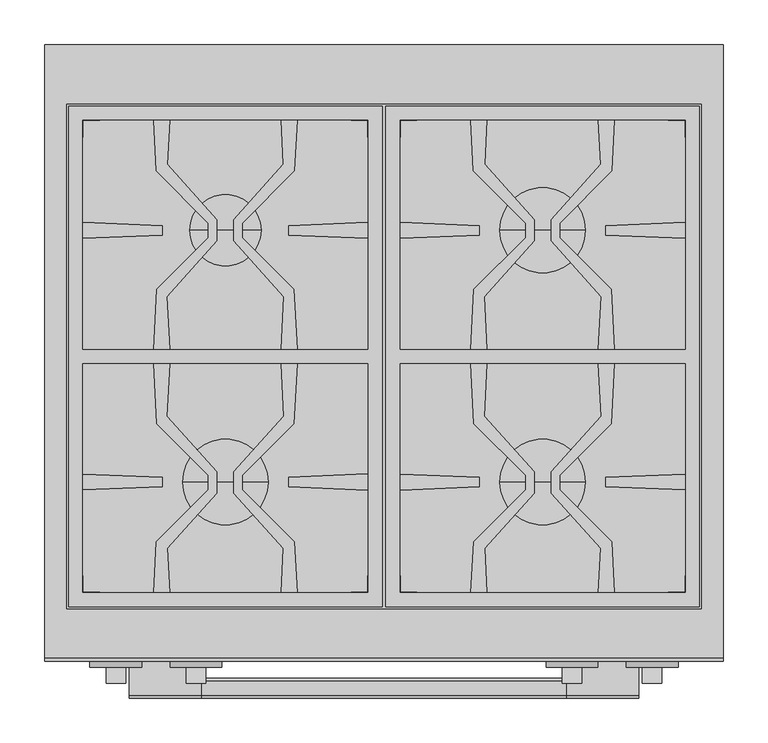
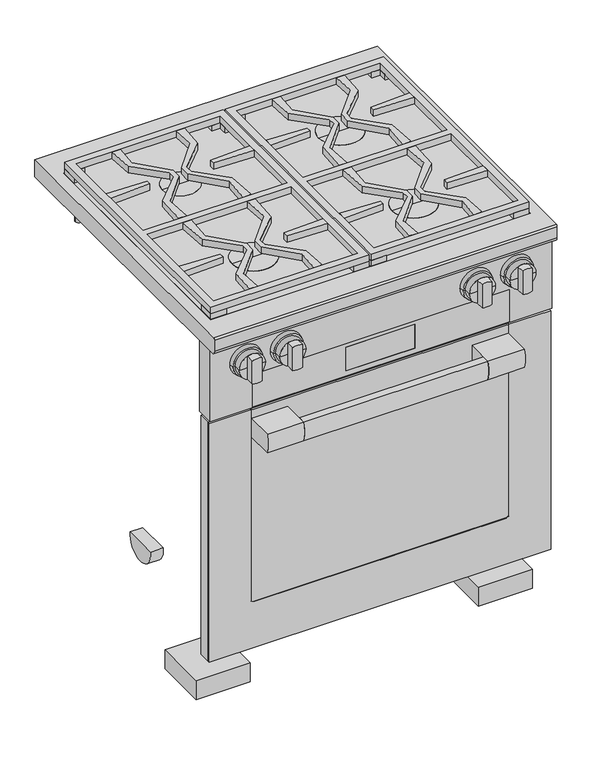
"""IFC4 building model written with IfcOpenShell, lengths in millimetres: proxy geometry, 11791560_USA_HR1924-3LP_EDST-CLS : 25192482_USA_11791560_HR1924-3LP_EDST-CLS."""

from ifc_helpers import new_model, si_unit, point, frame, frame_2d, origin, origin_with_axes, place, context, project, spatial, polyline, circle_curve, trimmed, segment, composite_curve, outline, extrude, faceted_brep, source, transform, mapped, element, save
from ifc_brep_helpers import plane_surface, cylinder_surface, revolved_surface, advanced_brep


def specialty_equipment_0885a198(model_context):
    return source(origin(), model_context, "Body", "SolidModel", [
        extrude(outline(polyline([(-351.0, -617.0), (351.0, -617.0), (351.0, -638.0), (-351.0, -638.0), (-351.0, -617.0)])), frame((0.0, 0.0, 133.0), z_axis=(0.0, 0.0, 1.0), x_axis=(1.0, 0.0, 0.0)), (0.0, 0.0, 1.0), 550.0),
        advanced_brep(
        [(287.0, -664.7, 688.0), (380.0, -664.7, 688.0), (380.0, -664.7, 127.0), (-380.0, -664.7, 127.0), (-380.0, -664.7, 688.0), (-287.0, -664.7, 688.0), (-287.0, -664.7, 687.0), (-379.0, -664.7, 687.0), (-379.0, -664.7, 128.0), (379.0, -664.7, 128.0), (379.0, -664.7, 687.0), (287.0, -664.7, 687.0), (-287.0, -670.0, 688.0), (-380.0, -670.0, 688.0), (-380.0, -670.0, 127.0), (380.0, -670.0, 127.0), (380.0, -670.0, 688.0), (287.0, -670.0, 688.0), (287.0, -670.0, 241.0), (281.0, -670.0, 235.0), (-281.0, -670.0, 235.0), (-287.0, -670.0, 241.0), (-287.0, -668.7, 241.0), (-287.0, -668.7, 687.0), (281.0, -668.7, 235.0), (-281.0, -668.7, 235.0), (287.0, -668.7, 687.0), (287.0, -668.7, 241.0), (379.0, -668.7, 687.0), (379.0, -668.7, 128.0), (-379.0, -668.7, 128.0), (-379.0, -668.7, 687.0)],
        [
            (0, 1),
            (1, 2),
            (2, 3),
            (3, 4),
            (4, 5),
            (5, 6),
            (6, 7),
            (7, 8),
            (8, 9),
            (9, 10),
            (10, 11),
            (11, 0),
            (12, 13),
            (13, 14),
            (14, 15),
            (15, 16),
            (16, 17),
            (17, 18),
            (18, 19, circle_curve(frame((281.0, -670.0, 241.0), z_axis=(0.0, 1.0, 0.0), x_axis=(-1.0, 0.0, 0.0)), 6.0)),
            (19, 20),
            (20, 21, circle_curve(frame((-281.0, -670.0, 241.0), z_axis=(0.0, 1.0, 0.0), x_axis=(-1.0, 0.0, 0.0)), 6.0)),
            (21, 12),
            (21, 22),
            (22, 23),
            (23, 6),
            (5, 12),
            (19, 24),
            (24, 25),
            (25, 20),
            (17, 0),
            (11, 26),
            (26, 27),
            (27, 18),
            (16, 1),
            (15, 2),
            (14, 3),
            (13, 4),
            (25, 22, circle_curve(frame((-281.0, -668.7, 241.0), z_axis=(0.0, 1.0, 0.0), x_axis=(-1.0, 0.0, 0.0)), 6.0)),
            (27, 24, circle_curve(frame((281.0, -668.7, 241.0), z_axis=(0.0, 1.0, 0.0), x_axis=(-1.0, 0.0, 0.0)), 6.0)),
            (28, 29),
            (29, 30),
            (30, 31),
            (31, 23),
            (26, 28),
            (28, 10),
            (9, 29),
            (8, 30),
            (7, 31),
        ],
        [
            plane_surface(frame((-287.0, -664.7, 241.0), z_axis=(0.0, 1.0, 0.0), x_axis=(0.0, 0.0, -1.0))),
            plane_surface(frame((-287.0, -670.0, 241.0), z_axis=(0.0, -1.0, 0.0), x_axis=(0.0, 0.0, 1.0))),
            plane_surface(frame((-287.0, -664.7, 688.0), z_axis=(1.0, 0.0, 0.0), x_axis=(0.0, -1.0, 0.0))),
            plane_surface(frame((-281.0, -664.7, 235.0), z_axis=(0.0, 0.0, 1.0), x_axis=(0.0, -1.0, 0.0))),
            plane_surface(frame((287.0, -664.7, 241.0), z_axis=(-1.0, 0.0, 0.0), x_axis=(0.0, -1.0, 0.0))),
            plane_surface(frame((287.0, -664.7, 688.0), z_axis=(0.0, 0.0, 1.0), x_axis=(0.0, -1.0, 0.0))),
            plane_surface(frame((380.0, -664.7, 688.0), z_axis=(1.0, 0.0, 0.0), x_axis=(0.0, -1.0, 0.0))),
            plane_surface(frame((380.0, -664.7, 127.0), z_axis=(0.0, 0.0, -1.0), x_axis=(0.0, -1.0, 0.0))),
            plane_surface(frame((-380.0, -664.7, 127.0), z_axis=(-1.0, 0.0, 0.0), x_axis=(0.0, -1.0, 0.0))),
            plane_surface(frame((-380.0, -664.7, 688.0), z_axis=(0.0, 0.0, 1.0), x_axis=(0.0, -1.0, 0.0))),
            revolved_surface(polyline([(-287.0, -670.0, 241.0), (-287.0, -668.7, 241.0)]), (-281.0, -670.0, 241.0), (0.0, -1.0, 0.0)),
            revolved_surface(polyline([(275.0, -670.0, 241.0), (275.0, -668.7, 241.0)]), (281.0, -670.0, 241.0), (0.0, -1.0, 0.0)),
            plane_surface(frame((379.0, -668.7, 687.0), z_axis=(0.0, 1.0, 0.0), x_axis=(0.0, 0.0, 1.0))),
            plane_surface(frame((379.0, -664.7, 687.0), z_axis=(-1.0, 0.0, 0.0), x_axis=(0.0, -1.0, 0.0))),
            plane_surface(frame((379.0, -664.7, 128.0), z_axis=(0.0, 0.0, 1.0), x_axis=(0.0, -1.0, 0.0))),
            plane_surface(frame((-379.0, -664.7, 128.0), z_axis=(1.0, 0.0, 0.0), x_axis=(0.0, -1.0, 0.0))),
            plane_surface(frame((-379.0, -664.7, 687.0), z_axis=(0.0, 0.0, -1.0), x_axis=(0.0, -1.0, 0.0))),
        ],
        [
            (0, [[1, 2, 3, 4, 5, 6, 7, 8, 9, 10, 11, 12]]),
            (1, [[13, 14, 15, 16, 17, 18, 19, 20, 21, 22]]),
            (2, [[-22, 23, 24, 25, -6, 26]]),
            (3, [[-20, 27, 28, 29]]),
            (4, [[-18, 30, -12, 31, 32, 33]]),
            (5, [[-1, -30, -17, 34]]),
            (6, [[-2, -34, -16, 35]]),
            (7, [[-3, -35, -15, 36]]),
            (8, [[-4, -36, -14, 37]]),
            (9, [[-5, -37, -13, -26]]),
            (10, [[-21, -29, 38, -23]]),
            (11, [[-19, -33, 39, -27]]),
            (12, [[40, 41, 42, 43, -24, -38, -28, -39, -32, 44]]),
            (13, [[-40, 45, -10, 46]]),
            (14, [[-41, -46, -9, 47]]),
            (15, [[-42, -47, -8, 48]]),
            (16, [[-45, -44, -31, -11]]),
            (16, [[-48, -7, -25, -43]]),
        ],
    ),
        extrude(outline(polyline([(-379.0, -664.7), (379.0, -664.7), (379.0, -668.7), (-379.0, -668.7), (-379.0, -664.7)])), frame((0.0, 0.0, 128.0), z_axis=(0.0, 0.0, 1.0), x_axis=(1.0, 0.0, 0.0)), (0.0, 0.0, 1.0), 559.0),
        extrude(outline(polyline([(-380.0, -638.0), (380.0, -638.0), (380.0, -664.7), (-380.0, -664.7), (-380.0, -638.0)])), frame((0.0, 0.0, 127.0), z_axis=(0.0, 0.0, 1.0), x_axis=(1.0, 0.0, 0.0)), (0.0, 0.0, 1.0), 561.0),
        extrude(outline(composite_curve([segment(polyline([(-668.7, 667.0), (-668.7, 624.0), (-731.0, 624.0)]), True, "CONTINUOUS"), segment(trimmed(circle_curve(frame_2d((-655.4583333, 645.5)), 78.5416667), [point((-731.0, 624.0))], [point((-731.0, 667.0))], False, "CARTESIAN"), True, "CONTINUOUS"), segment(polyline([(-731.0, 667.0), (-668.7, 667.0)]), True, "CONTINUOUS")], self_intersect=False)), frame((-286.0, 0.0, 0.0), z_axis=(1.0, 0.0, 0.0), x_axis=(0.0, 1.0, 0.0)), (0.0, 0.0, 1.0), 81.0),
        extrude(outline(composite_curve([segment(polyline([(-731.0, 667.0), (-668.7, 667.0), (-668.7, 624.0), (-731.0, 624.0)]), True, "CONTINUOUS"), segment(trimmed(circle_curve(frame_2d((-655.4583333, 645.5)), 78.5416667), [point((-731.0, 624.0))], [point((-731.0, 667.0))], False, "CARTESIAN"), True, "CONTINUOUS")], self_intersect=False)), frame((205.0, 0.0, 0.0), z_axis=(1.0, 0.0, 0.0), x_axis=(0.0, 1.0, 0.0)), (0.0, 0.0, 1.0), 81.0),
        extrude(outline(composite_curve([segment(polyline([(-714.0, 624.0), (-731.0, 624.0)]), True, "CONTINUOUS"), segment(trimmed(circle_curve(frame_2d((-655.4583333, 645.5)), 78.5416667), [point((-731.0, 624.0))], [point((-731.0, 667.0))], False, "CARTESIAN"), True, "CONTINUOUS"), segment(polyline([(-731.0, 667.0), (-714.0, 667.0)]), True, "CONTINUOUS"), segment(trimmed(circle_curve(frame_2d((-789.5416667, 645.5)), 78.5416667), [point((-714.0, 667.0))], [point((-714.0, 624.0))], False, "CARTESIAN"), True, "CONTINUOUS")], self_intersect=False)), frame((-205.0, 0.0, 0.0), z_axis=(1.0, 0.0, 0.0), x_axis=(0.0, 1.0, 0.0)), (0.0, 0.0, 1.0), 410.0),
        advanced_brep(
        [(381.0, 0.0, 902.0), (381.0, -688.3499547, 902.0), (381.0, -692.0, 898.3499547), (381.0, -692.0, 872.0), (381.0, -682.0, 862.0), (381.0, 0.0, 862.0), (-381.0, 0.0, 902.0), (-381.0, 0.0, 862.0), (-381.0, -682.0, 862.0), (-381.0, -692.0, 872.0), (-381.0, -692.0, 898.3499547), (-381.0, -688.3499547, 902.0), (-356.0, -67.0, 902.0), (356.0, -67.0, 902.0), (356.0, -633.0, 902.0), (-356.0, -633.0, 902.0), (356.0, -67.0, 870.0), (-356.0, -67.0, 870.0), (-356.0, -633.0, 870.0), (356.0, -633.0, 870.0)],
        [
            (0, 1),
            (1, 2, circle_curve(frame((381.0, -688.0, 898.0), z_axis=(1.0, 0.0, 0.0), x_axis=(0.0, 0.0, 1.0)), 4.0152794)),
            (2, 3),
            (3, 4, circle_curve(frame((381.0, -682.0, 872.0), z_axis=(1.0, 0.0, 0.0), x_axis=(0.0, 0.0, 1.0)), 10.0)),
            (4, 5),
            (5, 0),
            (6, 7),
            (7, 8),
            (8, 9, circle_curve(frame((-381.0, -682.0, 872.0), z_axis=(-1.0, 0.0, 0.0), x_axis=(0.0, 0.0, 1.0)), 10.0)),
            (9, 10),
            (10, 11, circle_curve(frame((-381.0, -688.0, 898.0), z_axis=(-1.0, 0.0, 0.0), x_axis=(0.0, 0.0, 1.0)), 4.0152794)),
            (11, 6),
            (0, 6),
            (11, 1),
            (12, 13),
            (13, 14),
            (14, 15),
            (15, 12),
            (10, 2),
            (9, 3),
            (8, 4),
            (7, 5),
            (16, 17),
            (17, 18),
            (18, 19),
            (19, 16),
            (16, 13),
            (12, 17),
            (15, 18),
            (14, 19),
        ],
        [
            plane_surface(frame((381.0, -688.3499547, 902.0), z_axis=(1.0, 0.0, 0.0), x_axis=(0.0, -1.0, 0.0))),
            plane_surface(frame((-381.0, -688.3499547, 902.0), z_axis=(-1.0, 0.0, 0.0), x_axis=(0.0, 1.0, 0.0))),
            plane_surface(frame((381.0, 0.0, 902.0), z_axis=(0.0, 0.0, 1.0), x_axis=(-1.0, 0.0, 0.0))),
            cylinder_surface(frame((-381.0, -688.0, 898.0), z_axis=(1.0, 0.0, 0.0), x_axis=(0.0, 0.0, 1.0)), 4.0152794),
            plane_surface(frame((381.0, -692.0, 898.3499547), z_axis=(0.0, -1.0, 0.0), x_axis=(-1.0, 0.0, 0.0))),
            cylinder_surface(frame((-381.0, -682.0, 872.0), z_axis=(1.0, 0.0, 0.0), x_axis=(0.0, 0.0, 1.0)), 10.0),
            plane_surface(frame((381.0, -682.0, 862.0), z_axis=(0.0, 0.0, -1.0), x_axis=(-1.0, 0.0, 0.0))),
            plane_surface(frame((381.0, 0.0, 862.0), z_axis=(0.0, 1.0, 0.0), x_axis=(-1.0, 0.0, 0.0))),
            plane_surface(frame((-356.0, -67.0, 870.0), z_axis=(0.0, 0.0, 1.0), x_axis=(1.0, 0.0, 0.0))),
            plane_surface(frame((356.0, -67.0, 902.0), z_axis=(0.0, -1.0, 0.0), x_axis=(0.0, 0.0, -1.0))),
            plane_surface(frame((-356.0, -67.0, 902.0), z_axis=(1.0, 0.0, 0.0), x_axis=(0.0, 0.0, -1.0))),
            plane_surface(frame((-356.0, -633.0, 902.0), z_axis=(0.0, 1.0, 0.0), x_axis=(0.0, 0.0, -1.0))),
            plane_surface(frame((356.0, -633.0, 902.0), z_axis=(-1.0, 0.0, 0.0), x_axis=(0.0, 0.0, -1.0))),
        ],
        [
            (0, [[1, 2, 3, 4, 5, 6]]),
            (1, [[7, 8, 9, 10, 11, 12]]),
            (2, [[-1, 13, -12, 14], [15, 16, 17, 18]]),
            (3, [[-2, -14, -11, 19]]),
            (4, [[-3, -19, -10, 20]]),
            (5, [[-4, -20, -9, 21]]),
            (6, [[-5, -21, -8, 22]]),
            (7, [[-6, -22, -7, -13]]),
            (8, [[23, 24, 25, 26]]),
            (9, [[-23, 27, -15, 28]]),
            (10, [[-24, -28, -18, 29]]),
            (11, [[-25, -29, -17, 30]]),
            (12, [[-26, -30, -16, -27]]),
        ],
    ),
        advanced_brep(
        [(130.0, -491.0, 887.0), (226.0, -491.0, 887.0), (226.0, -491.0, 901.0), (130.0, -491.0, 901.0), (178.0, -491.0, 887.0), (178.0, -491.0, 901.0)],
        [
            (0, 1, circle_curve(frame((178.0, -491.0, 887.0), z_axis=(0.0, 0.0, 1.0), x_axis=(1.0, 0.0, 0.0)), 48.0)),
            (1, 2),
            (2, 3, circle_curve(frame((178.0, -491.0, 901.0), z_axis=(0.0, 0.0, -1.0), x_axis=(1.0, 0.0, 0.0)), 48.0)),
            (3, 0),
            (1, 0, circle_curve(frame((178.0, -491.0, 887.0), z_axis=(0.0, 0.0, 1.0), x_axis=(1.0, 0.0, 0.0)), 48.0)),
            (3, 2, circle_curve(frame((178.0, -491.0, 901.0), z_axis=(0.0, 0.0, -1.0), x_axis=(1.0, 0.0, 0.0)), 48.0)),
            (4, 1),
            (0, 4),
            (2, 5),
            (5, 3),
        ],
        [
            cylinder_surface(frame((178.0, -491.0, 2424.4), z_axis=(0.0, 0.0, -1.0), x_axis=(1.0, 0.0, 0.0)), 48.0),
            plane_surface(frame((178.0, -491.0, 887.0), z_axis=(0.0, 0.0, -1.0), x_axis=(1.0, 0.0, 0.0))),
            plane_surface(frame((178.0, -491.0, 901.0), z_axis=(0.0, 0.0, 1.0), x_axis=(1.0, 0.0, 0.0))),
        ],
        [
            (0, [[1, 2, 3, 4]]),
            (0, [[5, -4, 6, -2]]),
            (1, [[7, -1, 8]]),
            (1, [[-8, -5, -7]]),
            (2, [[-3, 9, 10]]),
            (2, [[-6, -10, -9]]),
        ],
    ),
        advanced_brep(
        [(-226.0, -491.0, 887.0), (-130.0, -491.0, 887.0), (-130.0, -491.0, 901.0), (-226.0, -491.0, 901.0), (-178.0, -491.0, 887.0), (-178.0, -491.0, 901.0)],
        [
            (0, 1, circle_curve(frame((-178.0, -491.0, 887.0), z_axis=(0.0, 0.0, 1.0), x_axis=(1.0, 0.0, 0.0)), 48.0)),
            (1, 2),
            (2, 3, circle_curve(frame((-178.0, -491.0, 901.0), z_axis=(0.0, 0.0, -1.0), x_axis=(1.0, 0.0, 0.0)), 48.0)),
            (3, 0),
            (1, 0, circle_curve(frame((-178.0, -491.0, 887.0), z_axis=(0.0, 0.0, 1.0), x_axis=(1.0, 0.0, 0.0)), 48.0)),
            (3, 2, circle_curve(frame((-178.0, -491.0, 901.0), z_axis=(0.0, 0.0, -1.0), x_axis=(1.0, 0.0, 0.0)), 48.0)),
            (4, 1),
            (0, 4),
            (2, 5),
            (5, 3),
        ],
        [
            cylinder_surface(frame((-178.0, -491.0, 2424.4), z_axis=(0.0, 0.0, -1.0), x_axis=(1.0, 0.0, 0.0)), 48.0),
            plane_surface(frame((-178.0, -491.0, 887.0), z_axis=(0.0, 0.0, -1.0), x_axis=(1.0, 0.0, 0.0))),
            plane_surface(frame((-178.0, -491.0, 901.0), z_axis=(0.0, 0.0, 1.0), x_axis=(1.0, 0.0, 0.0))),
        ],
        [
            (0, [[1, 2, 3, 4]]),
            (0, [[5, -4, 6, -2]]),
            (1, [[7, -1, 8]]),
            (1, [[-8, -5, -7]]),
            (2, [[-3, 9, 10]]),
            (2, [[-6, -10, -9]]),
        ],
    ),
        advanced_brep(
        [(-178.0, -208.5, 887.0), (-138.0, -208.5, 887.0), (-218.0, -208.5, 887.0), (-218.0, -208.5, 901.0), (-138.0, -208.5, 901.0), (-178.0, -208.5, 901.0)],
        [
            (0, 1),
            (1, 2, circle_curve(frame((-178.0, -208.5, 887.0), z_axis=(0.0, 0.0, -1.0), x_axis=(1.0, 0.0, 0.0)), 40.0)),
            (2, 0),
            (2, 1, circle_curve(frame((-178.0, -208.5, 887.0), z_axis=(0.0, 0.0, -1.0), x_axis=(1.0, 0.0, 0.0)), 40.0)),
            (3, 4, circle_curve(frame((-178.0, -208.5, 901.0), z_axis=(0.0, 0.0, 1.0), x_axis=(1.0, 0.0, 0.0)), 40.0)),
            (4, 5),
            (5, 3),
            (4, 3, circle_curve(frame((-178.0, -208.5, 901.0), z_axis=(0.0, 0.0, 1.0), x_axis=(1.0, 0.0, 0.0)), 40.0)),
            (1, 4),
            (3, 2),
        ],
        [
            plane_surface(frame((-178.0, -208.5, 887.0), z_axis=(0.0, 0.0, -1.0), x_axis=(1.0, 0.0, 0.0))),
            plane_surface(frame((-178.0, -208.5, 901.0), z_axis=(0.0, 0.0, 1.0), x_axis=(1.0, 0.0, 0.0))),
            cylinder_surface(frame((-178.0, -208.5, 2424.4), z_axis=(0.0, 0.0, -1.0), x_axis=(1.0, 0.0, 0.0)), 40.0),
        ],
        [
            (0, [[1, 2, 3]]),
            (0, [[-3, 4, -1]]),
            (1, [[5, 6, 7]]),
            (1, [[8, -7, -6]]),
            (2, [[-2, 9, -5, 10]]),
            (2, [[-4, -10, -8, -9]]),
        ],
    ),
        advanced_brep(
        [(130.0, -208.5, 887.0), (226.0, -208.5, 887.0), (226.0, -208.5, 901.0), (130.0, -208.5, 901.0), (178.0, -208.5, 887.0), (178.0, -208.5, 901.0)],
        [
            (0, 1, circle_curve(frame((178.0, -208.5, 887.0), z_axis=(0.0, 0.0, 1.0), x_axis=(1.0, 0.0, 0.0)), 48.0)),
            (1, 2),
            (2, 3, circle_curve(frame((178.0, -208.5, 901.0), z_axis=(0.0, 0.0, -1.0), x_axis=(1.0, 0.0, 0.0)), 48.0)),
            (3, 0),
            (1, 0, circle_curve(frame((178.0, -208.5, 887.0), z_axis=(0.0, 0.0, 1.0), x_axis=(1.0, 0.0, 0.0)), 48.0)),
            (3, 2, circle_curve(frame((178.0, -208.5, 901.0), z_axis=(0.0, 0.0, -1.0), x_axis=(1.0, 0.0, 0.0)), 48.0)),
            (4, 1),
            (0, 4),
            (2, 5),
            (5, 3),
        ],
        [
            cylinder_surface(frame((178.0, -208.5, 2338.4), z_axis=(0.0, 0.0, -1.0), x_axis=(1.0, 0.0, 0.0)), 48.0),
            plane_surface(frame((178.0, -208.5, 887.0), z_axis=(0.0, 0.0, -1.0), x_axis=(1.0, 0.0, 0.0))),
            plane_surface(frame((178.0, -208.5, 901.0), z_axis=(0.0, 0.0, 1.0), x_axis=(1.0, 0.0, 0.0))),
        ],
        [
            (0, [[1, 2, 3, 4]]),
            (0, [[5, -4, 6, -2]]),
            (1, [[7, -1, 8]]),
            (1, [[-8, -5, -7]]),
            (2, [[-3, 9, 10]]),
            (2, [[-6, -10, -9]]),
        ],
    ),
        extrude(outline(polyline([(354.0, -631.0), (319.0, -631.0), (319.0, -615.0), (338.0337834, -615.0), (338.0337834, -596.0), (354.0, -596.0), (354.0, -631.0)])), frame((0.0, 0.0, 887.0), z_axis=(0.0, 0.0, 1.0), x_axis=(1.0, 0.0, 0.0)), (0.0, 0.0, 1.0), 27.0),
        extrude(outline(polyline([(2.0, -631.0), (2.0, -596.0), (18.0337834, -596.0), (18.0337834, -615.0), (37.0, -615.0), (37.0, -631.0), (2.0, -631.0)])), frame((0.0, 0.0, 887.0), z_axis=(0.0, 0.0, 1.0), x_axis=(1.0, 0.0, 0.0)), (0.0, 0.0, 1.0), 27.0),
        extrude(outline(polyline([(354.0, -69.0), (354.0, -104.0), (338.0337834, -104.0), (338.0337834, -85.0), (319.0, -85.0), (319.0, -69.0), (354.0, -69.0)])), frame((0.0, 0.0, 887.0), z_axis=(0.0, 0.0, 1.0), x_axis=(1.0, 0.0, 0.0)), (0.0, 0.0, 1.0), 27.0),
        extrude(outline(polyline([(2.0, -69.0), (37.0, -69.0), (37.0, -85.0), (18.0337834, -85.0), (18.0337834, -104.0), (2.0, -104.0), (2.0, -69.0)])), frame((0.0, 0.0, 887.0), z_axis=(0.0, 0.0, 1.0), x_axis=(1.0, 0.0, 0.0)), (0.0, 0.0, 1.0), 27.0),
        extrude(outline(polyline([(354.0, -69.0), (354.0, -631.0), (2.0, -631.0), (2.0, -69.0), (354.0, -69.0)]), holes=[polyline([(338.0337834, -85.0), (18.0337834, -85.0), (18.0337834, -342.0), (338.0337834, -342.0), (338.0337834, -85.0)]), polyline([(18.0337834, -358.0), (18.0337834, -615.0), (338.0337834, -615.0), (338.0337834, -358.0), (18.0337834, -358.0)])]), frame((0.0, 0.0, 914.0), z_axis=(0.0, 0.0, 1.0), x_axis=(1.0, 0.0, 0.0)), (0.0, 0.0, 1.0), 15.0),
        extrude(outline(polyline([(-2.0, -69.0), (-2.0, -631.0), (-354.0, -631.0), (-354.0, -69.0), (-2.0, -69.0)]), holes=[polyline([(-18.0, -85.0), (-338.0, -85.0), (-338.0, -342.0), (-18.0, -342.0), (-18.0, -85.0)]), polyline([(-338.0, -358.0), (-338.0, -615.0), (-18.0, -615.0), (-18.0, -358.0), (-338.0, -358.0)])]), frame((0.0, 0.0, 914.0), z_axis=(0.0, 0.0, 1.0), x_axis=(1.0, 0.0, 0.0)), (0.0, 0.0, 1.0), 15.0),
        extrude(outline(polyline([(18.0337834, -217.4810574), (18.0337834, -199.5189426), (107.0337834, -203.2078739), (107.0337834, -213.7921261), (18.0337834, -217.4810574)])), frame((0.0, 0.0, 914.0), z_axis=(0.0, 0.0, 1.0), x_axis=(1.0, 0.0, 0.0)), (0.0, 0.0, 1.0), 15.0),
        extrude(outline(polyline([(338.0337834, -199.5262039), (338.0337834, -217.4737961), (249.0337834, -213.7790477), (249.0337834, -203.2209523), (338.0337834, -199.5262039)])), frame((0.0, 0.0, 914.0), z_axis=(0.0, 0.0, 1.0), x_axis=(1.0, 0.0, 0.0)), (0.0, 0.0, 1.0), 15.0),
        extrude(outline(polyline([(18.0337834, -499.9810574), (18.0337834, -482.0189426), (107.0337834, -485.7078739), (107.0337834, -496.2921261), (18.0337834, -499.9810574)])), frame((0.0, 0.0, 914.0), z_axis=(0.0, 0.0, 1.0), x_axis=(1.0, 0.0, 0.0)), (0.0, 0.0, 1.0), 15.0),
        extrude(outline(polyline([(338.0337834, -482.0262039), (338.0337834, -499.9737961), (249.0337834, -496.2790477), (249.0337834, -485.7209523), (338.0337834, -482.0262039)])), frame((0.0, 0.0, 914.0), z_axis=(0.0, 0.0, 1.0), x_axis=(1.0, 0.0, 0.0)), (0.0, 0.0, 1.0), 15.0),
        extrude(outline(polyline([(-2.0, -631.0), (-37.0, -631.0), (-37.0, -615.0), (-18.0, -615.0), (-18.0, -596.0), (-2.0, -596.0), (-2.0, -631.0)])), frame((0.0, 0.0, 887.0), z_axis=(0.0, 0.0, 1.0), x_axis=(1.0, 0.0, 0.0)), (0.0, 0.0, 1.0), 27.0),
        extrude(outline(polyline([(-354.0, -631.0), (-354.0, -596.0), (-338.0, -596.0), (-338.0, -615.0), (-319.0, -615.0), (-319.0, -631.0), (-354.0, -631.0)])), frame((0.0, 0.0, 887.0), z_axis=(0.0, 0.0, 1.0), x_axis=(1.0, 0.0, 0.0)), (0.0, 0.0, 1.0), 27.0),
        extrude(outline(polyline([(-2.0, -69.0), (-2.0, -104.0), (-18.0, -104.0), (-18.0, -85.0), (-37.0, -85.0), (-37.0, -69.0), (-2.0, -69.0)])), frame((0.0, 0.0, 887.0), z_axis=(0.0, 0.0, 1.0), x_axis=(1.0, 0.0, 0.0)), (0.0, 0.0, 1.0), 27.0),
        extrude(outline(polyline([(-354.0, -69.0), (-319.0, -69.0), (-319.0, -85.0), (-338.0, -85.0), (-338.0, -104.0), (-354.0, -104.0), (-354.0, -69.0)])), frame((0.0, 0.0, 887.0), z_axis=(0.0, 0.0, 1.0), x_axis=(1.0, 0.0, 0.0)), (0.0, 0.0, 1.0), 27.0),
        extrude(outline(polyline([(-249.0, -496.2921261), (-338.0, -499.9578849), (-338.0, -482.0421151), (-249.0, -485.7078739), (-249.0, -496.2921261)])), frame((0.0, 0.0, 914.0), z_axis=(0.0, 0.0, 1.0), x_axis=(1.0, 0.0, 0.0)), (0.0, 0.0, 1.0), 15.0),
        extrude(outline(polyline([(-18.0, -482.0029948), (-18.0, -499.9970052), (-107.0, -496.2790477), (-107.0, -485.7209523), (-18.0, -482.0029948)])), frame((0.0, 0.0, 914.0), z_axis=(0.0, 0.0, 1.0), x_axis=(1.0, 0.0, 0.0)), (0.0, 0.0, 1.0), 15.0),
        extrude(outline(polyline([(-249.0, -213.7921261), (-338.0, -217.4578849), (-338.0, -199.5421151), (-249.0, -203.2078739), (-249.0, -213.7921261)])), frame((0.0, 0.0, 914.0), z_axis=(0.0, 0.0, 1.0), x_axis=(1.0, 0.0, 0.0)), (0.0, 0.0, 1.0), 15.0),
        extrude(outline(polyline([(-18.0, -199.5029948), (-18.0, -217.4970052), (-107.0, -213.7790477), (-107.0, -203.2209523), (-18.0, -199.5029948)])), frame((0.0, 0.0, 914.0), z_axis=(0.0, 0.0, 1.0), x_axis=(1.0, 0.0, 0.0)), (0.0, 0.0, 1.0), 15.0),
        extrude(outline(polyline([(-2.0, -67.0), (-2.0, -633.0), (-354.0, -633.0), (-354.0, -67.0), (-2.0, -67.0)])), frame((0.0, 0.0, 870.0), z_axis=(0.0, 0.0, 1.0), x_axis=(1.0, 0.0, 0.0)), (0.0, 0.0, 1.0), 17.0),
        extrude(outline(polyline([(354.0, -69.0), (354.0, -631.0), (2.0, -631.0), (2.0, -69.0), (354.0, -69.0)])), frame((0.0, 0.0, 870.0), z_axis=(0.0, 0.0, 1.0), x_axis=(1.0, 0.0, 0.0)), (0.0, 0.0, 1.0), 17.0),
        extrude(outline(polyline([(115.4614138, -85.0), (112.8661974, -134.5196799), (168.5, -196.6082182), (168.5, -220.3917818), (112.3710782, -283.0328838), (115.4614138, -342.0), (97.4614138, -342.0), (100.9971843, -274.5334805), (158.8891082, -216.6415566), (158.8891082, -200.3584434), (100.4441217, -141.9134569), (97.4614138, -85.0), (115.4614138, -85.0)])), frame((0.0, 0.0, 914.0), z_axis=(0.0, 0.0, 1.0), x_axis=(1.0, 0.0, 0.0)), (0.0, 0.0, 1.0), 15.0),
        extrude(outline(polyline([(243.0952165, -134.5196799), (240.5, -85.0), (258.5, -85.0), (255.5172921, -141.9134569), (197.1108918, -200.3198573), (197.1108918, -216.6801428), (254.9642295, -274.5334805), (258.5, -342.0), (240.5, -342.0), (243.5903356, -283.0328839), (187.5, -220.4348449), (187.5, -196.5651551), (243.0952165, -134.5196799)])), frame((0.0, 0.0, 914.0), z_axis=(0.0, 0.0, 1.0), x_axis=(1.0, 0.0, 0.0)), (0.0, 0.0, 1.0), 15.0),
        extrude(outline(polyline([(-258.5385862, -85.0), (-240.5385862, -85.0), (-243.1338026, -134.5196799), (-187.5, -196.6082182), (-187.5, -220.3917818), (-243.6289218, -283.0328838), (-240.5385862, -342.0), (-258.5385862, -342.0), (-255.0028157, -274.5334805), (-197.1108918, -216.6415566), (-197.1108918, -200.3584434), (-255.5558783, -141.9134569), (-258.5385862, -85.0)])), frame((0.0, 0.0, 914.0), z_axis=(0.0, 0.0, 1.0), x_axis=(1.0, 0.0, 0.0)), (0.0, 0.0, 1.0), 15.0),
        extrude(outline(polyline([(-115.5, -85.0), (-97.5, -85.0), (-100.4827079, -141.9134569), (-158.8891082, -200.3198573), (-158.8891082, -216.6801428), (-101.0357705, -274.5334805), (-97.5, -342.0), (-115.5, -342.0), (-112.4096644, -283.0328839), (-168.5, -220.4348449), (-168.5, -196.5651551), (-112.9047835, -134.5196799), (-115.5, -85.0)])), frame((0.0, 0.0, 914.0), z_axis=(0.0, 0.0, 1.0), x_axis=(1.0, 0.0, 0.0)), (0.0, 0.0, 1.0), 15.0),
        extrude(outline(polyline([(-258.5822696, -358.0273828), (-240.5825893, -358.0273828), (-243.6525581, -416.9894265), (-187.5409434, -479.568392), (-187.5409434, -503.4471434), (-243.1069467, -565.5024535), (-240.4948945, -615.0212482), (-258.4945748, -615.0212482), (-255.5293542, -558.0710081), (-197.1505447, -499.6921986), (-197.1505447, -483.3657133), (-255.0235617, -425.4926963), (-258.5822696, -358.0273828)])), frame((0.0, 0.0, 914.0), z_axis=(0.0, 0.0, 1.0), x_axis=(1.0, 0.0, 0.0)), (0.0, 0.0, 1.0), 15.0),
        extrude(outline(polyline([(-115.5411265, -358.0273828), (-97.5465434, -358.0273828), (-101.0565254, -425.4403498), (-158.9287769, -483.3126013), (-158.9287769, -499.6295194), (-100.4561608, -558.1021355), (-97.4537513, -615.0212482), (-115.458529, -615.0212482), (-112.8779352, -565.4581775), (-168.5409298, -503.3795395), (-168.5409298, -479.6049953), (-112.4333083, -416.9448139), (-115.5411265, -358.0273828)])), frame((0.0, 0.0, 914.0), z_axis=(0.0, 0.0, 1.0), x_axis=(1.0, 0.0, 0.0)), (0.0, 0.0, 1.0), 15.0),
        extrude(outline(polyline([(97.4177304, -358.0273828), (115.4174107, -358.0273828), (112.3474419, -416.9894265), (168.4590566, -479.568392), (168.4590566, -503.4471434), (112.8930533, -565.5024535), (115.5051055, -615.0212482), (97.5054252, -615.0212482), (100.4706458, -558.0710081), (158.8494553, -499.6921986), (158.8494553, -483.3657133), (100.9764383, -425.4926963), (97.4177304, -358.0273828)])), frame((0.0, 0.0, 914.0), z_axis=(0.0, 0.0, 1.0), x_axis=(1.0, 0.0, 0.0)), (0.0, 0.0, 1.0), 15.0),
        extrude(outline(polyline([(243.5666917, -416.9448139), (240.4588735, -358.0273828), (258.4534566, -358.0273828), (254.9434746, -425.4403498), (197.0712231, -483.3126013), (197.0712231, -499.6295194), (255.5438392, -558.1021355), (258.5462487, -615.0212482), (240.541471, -615.0212482), (243.1220648, -565.4581775), (187.4590702, -503.3795395), (187.4590702, -479.6049953), (243.5666917, -416.9448139)])), frame((0.0, 0.0, 914.0), z_axis=(0.0, 0.0, 1.0), x_axis=(1.0, 0.0, 0.0)), (0.0, 0.0, 1.0), 15.0),
        extrude(outline(polyline([(356.0, -67.0), (356.0, -633.0), (-356.0, -633.0), (-356.0, -67.0), (356.0, -67.0)])), frame((0.0, 0.0, 870.0), z_axis=(0.0, 0.0, 1.0), x_axis=(1.0, 0.0, 0.0)), (0.0, 0.0, 1.0), 31.0),
        advanced_brep(
        [(301.0, -683.0, 813.0), (330.0, -683.0, 813.0), (272.0, -683.0, 813.0), (272.0, -699.0, 813.0), (330.0, -699.0, 813.0), (301.0, -699.0, 813.0)],
        [
            (0, 1),
            (1, 2, circle_curve(frame((301.0, -683.0, 813.0), z_axis=(0.0, 1.0, 0.0), x_axis=(1.0, 0.0, 0.0)), 29.0)),
            (2, 0),
            (2, 1, circle_curve(frame((301.0, -683.0, 813.0), z_axis=(0.0, 1.0, 0.0), x_axis=(1.0, 0.0, 0.0)), 29.0)),
            (3, 4, circle_curve(frame((301.0, -699.0, 813.0), z_axis=(0.0, -1.0, 0.0), x_axis=(1.0, 0.0, 0.0)), 29.0)),
            (4, 5),
            (5, 3),
            (4, 3, circle_curve(frame((301.0, -699.0, 813.0), z_axis=(0.0, -1.0, 0.0), x_axis=(1.0, 0.0, 0.0)), 29.0)),
            (1, 4),
            (3, 2),
        ],
        [
            plane_surface(frame((301.0, -683.0, 813.0), z_axis=(0.0, 1.0, 0.0), x_axis=(1.0, 0.0, 0.0))),
            plane_surface(frame((301.0, -699.0, 813.0), z_axis=(0.0, -1.0, 0.0), x_axis=(1.0, 0.0, 0.0))),
            cylinder_surface(frame((301.0, 751.3738435, 813.0), z_axis=(0.0, 1.0, 0.0), x_axis=(1.0, 0.0, 0.0)), 29.0),
        ],
        [
            (0, [[1, 2, 3]]),
            (0, [[-3, 4, -1]]),
            (1, [[5, 6, 7]]),
            (1, [[8, -7, -6]]),
            (2, [[-2, 9, -5, 10]]),
            (2, [[-4, -10, -8, -9]]),
        ],
    ),
        extrude(outline(composite_curve([segment(polyline([(786.1671843, 312.0), (839.8328157, 312.0)]), True, "CONTINUOUS"), segment(trimmed(circle_curve(frame_2d((813.0, 301.0)), 29.0), [point((839.8328157, 312.0))], [point((839.8328157, 290.0))], False, "CARTESIAN"), True, "CONTINUOUS"), segment(polyline([(839.8328157, 290.0), (786.1671843, 290.0)]), True, "CONTINUOUS"), segment(trimmed(circle_curve(frame_2d((813.0, 301.0)), 29.0), [point((786.1671843, 290.0))], [point((786.1671843, 312.0))], False, "CARTESIAN"), True, "CONTINUOUS")], self_intersect=False)), frame((0.0, -717.0, 0.0), z_axis=(0.0, 1.0, 0.0), x_axis=(0.0, 0.0, 1.0)), (0.0, 0.0, 1.0), 18.0),
        advanced_brep(
        [(211.0, -683.0, 813.0), (240.0, -683.0, 813.0), (182.0, -683.0, 813.0), (182.0, -699.0, 813.0), (240.0, -699.0, 813.0), (211.0, -699.0, 813.0)],
        [
            (0, 1),
            (1, 2, circle_curve(frame((211.0, -683.0, 813.0), z_axis=(0.0, 1.0, 0.0), x_axis=(1.0, 0.0, 0.0)), 29.0)),
            (2, 0),
            (2, 1, circle_curve(frame((211.0, -683.0, 813.0), z_axis=(0.0, 1.0, 0.0), x_axis=(1.0, 0.0, 0.0)), 29.0)),
            (3, 4, circle_curve(frame((211.0, -699.0, 813.0), z_axis=(0.0, -1.0, 0.0), x_axis=(1.0, 0.0, 0.0)), 29.0)),
            (4, 5),
            (5, 3),
            (4, 3, circle_curve(frame((211.0, -699.0, 813.0), z_axis=(0.0, -1.0, 0.0), x_axis=(1.0, 0.0, 0.0)), 29.0)),
            (1, 4),
            (3, 2),
        ],
        [
            plane_surface(frame((211.0, -683.0, 813.0), z_axis=(0.0, 1.0, 0.0), x_axis=(1.0, 0.0, 0.0))),
            plane_surface(frame((211.0, -699.0, 813.0), z_axis=(0.0, -1.0, 0.0), x_axis=(1.0, 0.0, 0.0))),
            cylinder_surface(frame((211.0, 751.3738435, 813.0), z_axis=(0.0, 1.0, 0.0), x_axis=(1.0, 0.0, 0.0)), 29.0),
        ],
        [
            (0, [[1, 2, 3]]),
            (0, [[-3, 4, -1]]),
            (1, [[5, 6, 7]]),
            (1, [[8, -7, -6]]),
            (2, [[-2, 9, -5, 10]]),
            (2, [[-4, -10, -8, -9]]),
        ],
    ),
        advanced_brep(
        [(-211.0, -683.0, 813.0), (-182.0, -683.0, 813.0), (-240.0, -683.0, 813.0), (-240.0, -699.0, 813.0), (-182.0, -699.0, 813.0), (-211.0, -699.0, 813.0)],
        [
            (0, 1),
            (1, 2, circle_curve(frame((-211.0, -683.0, 813.0), z_axis=(0.0, 1.0, 0.0), x_axis=(1.0, 0.0, 0.0)), 29.0)),
            (2, 0),
            (2, 1, circle_curve(frame((-211.0, -683.0, 813.0), z_axis=(0.0, 1.0, 0.0), x_axis=(1.0, 0.0, 0.0)), 29.0)),
            (3, 4, circle_curve(frame((-211.0, -699.0, 813.0), z_axis=(0.0, -1.0, 0.0), x_axis=(1.0, 0.0, 0.0)), 29.0)),
            (4, 5),
            (5, 3),
            (4, 3, circle_curve(frame((-211.0, -699.0, 813.0), z_axis=(0.0, -1.0, 0.0), x_axis=(1.0, 0.0, 0.0)), 29.0)),
            (1, 4),
            (3, 2),
        ],
        [
            plane_surface(frame((-211.0, -683.0, 813.0), z_axis=(0.0, 1.0, 0.0), x_axis=(1.0, 0.0, 0.0))),
            plane_surface(frame((-211.0, -699.0, 813.0), z_axis=(0.0, -1.0, 0.0), x_axis=(1.0, 0.0, 0.0))),
            cylinder_surface(frame((-211.0, 751.3738435, 813.0), z_axis=(0.0, 1.0, 0.0), x_axis=(1.0, 0.0, 0.0)), 29.0),
        ],
        [
            (0, [[1, 2, 3]]),
            (0, [[-3, 4, -1]]),
            (1, [[5, 6, 7]]),
            (1, [[8, -7, -6]]),
            (2, [[-2, 9, -5, 10]]),
            (2, [[-4, -10, -8, -9]]),
        ],
    ),
        advanced_brep(
        [(-301.0, -683.0, 813.0), (-272.0, -683.0, 813.0), (-330.0, -683.0, 813.0), (-330.0, -699.0, 813.0), (-272.0, -699.0, 813.0), (-301.0, -699.0, 813.0)],
        [
            (0, 1),
            (1, 2, circle_curve(frame((-301.0, -683.0, 813.0), z_axis=(0.0, 1.0, 0.0), x_axis=(1.0, 0.0, 0.0)), 29.0)),
            (2, 0),
            (2, 1, circle_curve(frame((-301.0, -683.0, 813.0), z_axis=(0.0, 1.0, 0.0), x_axis=(1.0, 0.0, 0.0)), 29.0)),
            (3, 4, circle_curve(frame((-301.0, -699.0, 813.0), z_axis=(0.0, -1.0, 0.0), x_axis=(1.0, 0.0, 0.0)), 29.0)),
            (4, 5),
            (5, 3),
            (4, 3, circle_curve(frame((-301.0, -699.0, 813.0), z_axis=(0.0, -1.0, 0.0), x_axis=(1.0, 0.0, 0.0)), 29.0)),
            (1, 4),
            (3, 2),
        ],
        [
            plane_surface(frame((-301.0, -683.0, 813.0), z_axis=(0.0, 1.0, 0.0), x_axis=(1.0, 0.0, 0.0))),
            plane_surface(frame((-301.0, -699.0, 813.0), z_axis=(0.0, -1.0, 0.0), x_axis=(1.0, 0.0, 0.0))),
            cylinder_surface(frame((-301.0, 751.3738435, 813.0), z_axis=(0.0, 1.0, 0.0), x_axis=(1.0, 0.0, 0.0)), 29.0),
        ],
        [
            (0, [[1, 2, 3]]),
            (0, [[-3, 4, -1]]),
            (1, [[5, 6, 7]]),
            (1, [[8, -7, -6]]),
            (2, [[-2, 9, -5, 10]]),
            (2, [[-4, -10, -8, -9]]),
        ],
    ),
        extrude(outline(composite_curve([segment(trimmed(circle_curve(frame_2d((813.0, 211.0)), 29.0), [point((786.1671843, 200.0))], [point((786.1671843, 222.0))], False, "CARTESIAN"), True, "CONTINUOUS"), segment(polyline([(786.1671843, 222.0), (839.8328157, 222.0)]), True, "CONTINUOUS"), segment(trimmed(circle_curve(frame_2d((813.0, 211.0)), 29.0), [point((839.8328157, 222.0))], [point((839.8328157, 200.0))], False, "CARTESIAN"), True, "CONTINUOUS"), segment(polyline([(839.8328157, 200.0), (786.1671843, 200.0)]), True, "CONTINUOUS")], self_intersect=False)), frame((0.0, -717.0, 0.0), z_axis=(0.0, 1.0, 0.0), x_axis=(0.0, 0.0, 1.0)), (0.0, 0.0, 1.0), 18.0),
        extrude(outline(composite_curve([segment(polyline([(839.8328157, -222.0), (786.1671843, -222.0)]), True, "CONTINUOUS"), segment(trimmed(circle_curve(frame_2d((813.0, -211.0)), 29.0), [point((786.1671843, -222.0))], [point((786.1671843, -200.0))], False, "CARTESIAN"), True, "CONTINUOUS"), segment(polyline([(786.1671843, -200.0), (839.8328157, -200.0)]), True, "CONTINUOUS"), segment(trimmed(circle_curve(frame_2d((813.0, -211.0)), 29.0), [point((839.8328157, -200.0))], [point((839.8328157, -222.0))], False, "CARTESIAN"), True, "CONTINUOUS")], self_intersect=False)), frame((0.0, -717.0, 0.0), z_axis=(0.0, 1.0, 0.0), x_axis=(0.0, 0.0, 1.0)), (0.0, 0.0, 1.0), 18.0),
        extrude(outline(composite_curve([segment(polyline([(839.8328157, -312.0), (786.1671843, -312.0)]), True, "CONTINUOUS"), segment(trimmed(circle_curve(frame_2d((813.0, -301.0)), 29.0), [point((786.1671843, -312.0))], [point((786.1671843, -290.0))], False, "CARTESIAN"), True, "CONTINUOUS"), segment(polyline([(786.1671843, -290.0), (839.8328157, -290.0)]), True, "CONTINUOUS"), segment(trimmed(circle_curve(frame_2d((813.0, -301.0)), 29.0), [point((839.8328157, -290.0))], [point((839.8328157, -312.0))], False, "CARTESIAN"), True, "CONTINUOUS")], self_intersect=False)), frame((0.0, -717.0, 0.0), z_axis=(0.0, 1.0, 0.0), x_axis=(0.0, 0.0, 1.0)), (0.0, 0.0, 1.0), 18.0),
        advanced_brep(
        [(267.7632698, -683.0, 813.0), (334.2367302, -683.0, 813.0), (301.0, -683.0, 813.0), (266.0, -673.0, 813.0), (336.0, -673.0, 813.0), (301.0, -673.0, 813.0)],
        [
            (0, 1, circle_curve(frame((301.0, -683.0, 813.0), z_axis=(0.0, -1.0, 0.0), x_axis=(1.0, 0.0, 0.0)), 33.2367302)),
            (1, 2),
            (2, 0),
            (1, 0, circle_curve(frame((301.0, -683.0, 813.0), z_axis=(0.0, -1.0, 0.0), x_axis=(1.0, 0.0, 0.0)), 33.2367302)),
            (3, 4, circle_curve(frame((301.0, -673.0, 813.0), z_axis=(0.0, -1.0, 0.0), x_axis=(1.0, 0.0, 0.0)), 35.0)),
            (4, 1),
            (0, 3),
            (4, 3, circle_curve(frame((301.0, -673.0, 813.0), z_axis=(0.0, -1.0, 0.0), x_axis=(1.0, 0.0, 0.0)), 35.0)),
            (5, 4),
            (3, 5),
        ],
        [
            plane_surface(frame((301.0, -683.0, 813.0), z_axis=(0.0, -1.0, 0.0), x_axis=(1.0, 0.0, 0.0))),
            revolved_surface(polyline([(334.2367302, -683.0, 813.0), (336.0, -673.0, 813.0)]), (301.0, 751.3738435, 813.0), (0.0, 1.0, 0.0)),
            plane_surface(frame((301.0, -673.0, 813.0), z_axis=(0.0, 1.0, 0.0), x_axis=(1.0, 0.0, 0.0))),
        ],
        [
            (0, [[1, 2, 3]]),
            (0, [[4, -3, -2]]),
            (1, [[5, 6, -1, 7]]),
            (1, [[8, -7, -4, -6]]),
            (2, [[9, -5, 10]]),
            (2, [[-10, -8, -9]]),
        ],
    ),
        advanced_brep(
        [(177.7632698, -683.0, 813.0), (244.2367302, -683.0, 813.0), (211.0, -683.0, 813.0), (176.0, -673.0, 813.0), (246.0, -673.0, 813.0), (211.0, -673.0, 813.0)],
        [
            (0, 1, circle_curve(frame((211.0, -683.0, 813.0), z_axis=(0.0, -1.0, 0.0), x_axis=(1.0, 0.0, 0.0)), 33.2367302)),
            (1, 2),
            (2, 0),
            (1, 0, circle_curve(frame((211.0, -683.0, 813.0), z_axis=(0.0, -1.0, 0.0), x_axis=(1.0, 0.0, 0.0)), 33.2367302)),
            (3, 4, circle_curve(frame((211.0, -673.0, 813.0), z_axis=(0.0, -1.0, 0.0), x_axis=(1.0, 0.0, 0.0)), 35.0)),
            (4, 1),
            (0, 3),
            (4, 3, circle_curve(frame((211.0, -673.0, 813.0), z_axis=(0.0, -1.0, 0.0), x_axis=(1.0, 0.0, 0.0)), 35.0)),
            (5, 4),
            (3, 5),
        ],
        [
            plane_surface(frame((211.0, -683.0, 813.0), z_axis=(0.0, -1.0, 0.0), x_axis=(1.0, 0.0, 0.0))),
            revolved_surface(polyline([(244.2367302, -683.0, 813.0), (246.0, -673.0, 813.0)]), (211.0, 751.3738435, 813.0), (0.0, 1.0, 0.0)),
            plane_surface(frame((211.0, -673.0, 813.0), z_axis=(0.0, 1.0, 0.0), x_axis=(1.0, 0.0, 0.0))),
        ],
        [
            (0, [[1, 2, 3]]),
            (0, [[4, -3, -2]]),
            (1, [[5, 6, -1, 7]]),
            (1, [[8, -7, -4, -6]]),
            (2, [[9, -5, 10]]),
            (2, [[-10, -8, -9]]),
        ],
    ),
        advanced_brep(
        [(-244.2367302, -683.0, 813.0), (-177.7632698, -683.0, 813.0), (-211.0, -683.0, 813.0), (-246.0, -673.0, 813.0), (-176.0, -673.0, 813.0), (-211.0, -673.0, 813.0)],
        [
            (0, 1, circle_curve(frame((-211.0, -683.0, 813.0), z_axis=(0.0, -1.0, 0.0), x_axis=(1.0, 0.0, 0.0)), 33.2367302)),
            (1, 2),
            (2, 0),
            (1, 0, circle_curve(frame((-211.0, -683.0, 813.0), z_axis=(0.0, -1.0, 0.0), x_axis=(1.0, 0.0, 0.0)), 33.2367302)),
            (3, 4, circle_curve(frame((-211.0, -673.0, 813.0), z_axis=(0.0, -1.0, 0.0), x_axis=(1.0, 0.0, 0.0)), 35.0)),
            (4, 1),
            (0, 3),
            (4, 3, circle_curve(frame((-211.0, -673.0, 813.0), z_axis=(0.0, -1.0, 0.0), x_axis=(1.0, 0.0, 0.0)), 35.0)),
            (5, 4),
            (3, 5),
        ],
        [
            plane_surface(frame((-211.0, -683.0, 813.0), z_axis=(0.0, -1.0, 0.0), x_axis=(1.0, 0.0, 0.0))),
            revolved_surface(polyline([(-177.7632698, -683.0, 813.0), (-176.0, -673.0, 813.0)]), (-211.0, 751.3738435, 813.0), (0.0, 1.0, 0.0)),
            plane_surface(frame((-211.0, -673.0, 813.0), z_axis=(0.0, 1.0, 0.0), x_axis=(1.0, 0.0, 0.0))),
        ],
        [
            (0, [[1, 2, 3]]),
            (0, [[4, -3, -2]]),
            (1, [[5, 6, -1, 7]]),
            (1, [[8, -7, -4, -6]]),
            (2, [[9, -5, 10]]),
            (2, [[-10, -8, -9]]),
        ],
    ),
        advanced_brep(
        [(-334.2367302, -683.0, 813.0), (-267.7632698, -683.0, 813.0), (-301.0, -683.0, 813.0), (-336.0, -673.0, 813.0), (-266.0, -673.0, 813.0), (-301.0, -673.0, 813.0)],
        [
            (0, 1, circle_curve(frame((-301.0, -683.0, 813.0), z_axis=(0.0, -1.0, 0.0), x_axis=(1.0, 0.0, 0.0)), 33.2367302)),
            (1, 2),
            (2, 0),
            (1, 0, circle_curve(frame((-301.0, -683.0, 813.0), z_axis=(0.0, -1.0, 0.0), x_axis=(1.0, 0.0, 0.0)), 33.2367302)),
            (3, 4, circle_curve(frame((-301.0, -673.0, 813.0), z_axis=(0.0, -1.0, 0.0), x_axis=(1.0, 0.0, 0.0)), 35.0)),
            (4, 1),
            (0, 3),
            (4, 3, circle_curve(frame((-301.0, -673.0, 813.0), z_axis=(0.0, -1.0, 0.0), x_axis=(1.0, 0.0, 0.0)), 35.0)),
            (5, 4),
            (3, 5),
        ],
        [
            plane_surface(frame((-301.0, -683.0, 813.0), z_axis=(0.0, -1.0, 0.0), x_axis=(1.0, 0.0, 0.0))),
            revolved_surface(polyline([(-267.7632698, -683.0, 813.0), (-266.0, -673.0, 813.0)]), (-301.0, 751.3738435, 813.0), (0.0, 1.0, 0.0)),
            plane_surface(frame((-301.0, -673.0, 813.0), z_axis=(0.0, 1.0, 0.0), x_axis=(1.0, 0.0, 0.0))),
        ],
        [
            (0, [[1, 2, 3]]),
            (0, [[4, -3, -2]]),
            (1, [[5, 6, -1, 7]]),
            (1, [[8, -7, -4, -6]]),
            (2, [[9, -5, 10]]),
            (2, [[-10, -8, -9]]),
        ],
    ),
        faceted_brep([(380.0, -673.0, 862.0), (-380.0, -673.0, 862.0), (-380.0, -673.0, 695.0), (-287.0, -673.0, 695.0), (-287.0, -673.0, 772.0), (287.0, -673.0, 772.0), (287.0, -673.0, 695.0), (380.0, -673.0, 695.0), (380.0, -633.0, 862.0), (380.0, -633.0, 695.0), (-380.0, -633.0, 695.0), (-380.0, -633.0, 862.0), (287.0, -666.7, 695.0), (-287.0, -666.7, 695.0), (287.0, -666.7, 772.0), (-287.0, -666.7, 772.0)], [[[0, 1, 2, 3, 4, 5, 6, 7]], [[8, 9, 10, 11]], [[0, 7, 9, 8]], [[10, 9, 7, 6, 12, 13, 3, 2]], [[2, 1, 11, 10]], [[1, 0, 8, 11]], [[14, 15, 13, 12]], [[14, 12, 6, 5]], [[13, 15, 4, 3]], [[15, 14, 5, 4]]]),
        extrude(outline(polyline([(772.0, 287.0), (772.0, -287.0), (695.0, -287.0), (695.0, 287.0), (772.0, 287.0)]), holes=[polyline([(763.0, 76.5), (707.0, 76.5), (707.0, -76.5), (763.0, -76.5), (763.0, 76.5)])]), frame((0.0, -671.7, 0.0), z_axis=(0.0, 1.0, 0.0), x_axis=(0.0, 0.0, 1.0)), (0.0, 0.0, 1.0), 5.0),
        extrude(outline(polyline([(76.5, -671.7), (-76.5, -671.7), (-76.5, -670.7), (76.5, -670.7), (76.5, -671.7)])), frame((0.0, 0.0, 707.0), z_axis=(0.0, 0.0, 1.0), x_axis=(1.0, 0.0, 0.0)), (0.0, 0.0, 1.0), 56.0),
        extrude(outline(polyline([(-254.0, -489.0), (-254.0, -609.0), (-374.0, -609.0), (-374.0, -489.0), (-254.0, -489.0)])), origin_with_axes(), (0.0, 0.0, 1.0), 45.0),
        extrude(outline(polyline([(374.0, -489.0), (374.0, -609.0), (254.0, -609.0), (254.0, -489.0), (374.0, -489.0)])), origin_with_axes(), (0.0, 0.0, 1.0), 45.0),
        extrude(outline(composite_curve([segment(trimmed(circle_curve(frame_2d((-152.0, 39.6862697)), 39.6862697), [point((-112.6710759, 45.0))], [point((-191.3289241, 45.0))], False, "CARTESIAN"), True, "CONTINUOUS"), segment(polyline([(-191.3289241, 45.0), (-112.6710759, 45.0)]), True, "CONTINUOUS")], self_intersect=False)), frame((-234.0, 0.0, 0.0), z_axis=(1.0, 0.0, 0.0), x_axis=(0.0, 1.0, 0.0)), (0.0, 0.0, 1.0), 28.0),
        extrude(outline(composite_curve([segment(trimmed(circle_curve(frame_2d((753.0, -230.0)), 7.5), [point((753.0, -222.5))], [point((753.0, -237.5))], False, "CARTESIAN"), True, "CONTINUOUS"), segment(trimmed(circle_curve(frame_2d((753.0, -230.0)), 7.5), [point((753.0, -237.5))], [point((753.0, -222.5))], False, "CARTESIAN"), True, "CONTINUOUS")], self_intersect=False)), frame((0.0, -66.0, 0.0), z_axis=(0.0, 1.0, 0.0), x_axis=(0.0, 0.0, 1.0)), (0.0, 0.0, 1.0), 30.0),
        extrude(outline(polyline([(748.0, -219.4829639), (758.0509015, -219.4829639), (758.0509015, -220.7409127), (753.1386151, -220.7409127), (758.0475587, -225.8904554), (758.0475587, -227.6455728), (753.9164775, -223.3179994), (748.0, -227.8019347), (748.0, -226.2701694), (753.0664133, -222.4304743), (751.4465471, -220.7392234), (748.0, -220.7392234), (748.0, -219.4829639)])), frame((0.0, -36.0, 0.0), z_axis=(0.0, 1.0, 0.0), x_axis=(0.0, 0.0, 1.0)), (0.0, 0.0, 1.0), 1.0),
        extrude(outline(polyline([(747.9900117, -230.5376107), (758.0405487, -227.8032463), (758.0405487, -229.1010309), (749.3952189, -231.1941056), (758.0411296, -233.6946617), (758.0411296, -235.5615338), (749.4117226, -238.0845612), (758.0419182, -240.165026), (758.0419182, -241.4626989), (747.9984871, -238.7244126), (747.9984871, -237.3735976), (756.8308623, -234.6286268), (747.9900117, -232.0716905), (747.9900117, -230.5376107)])), frame((0.0, -36.0, 0.0), z_axis=(0.0, 1.0, 0.0), x_axis=(0.0, 0.0, 1.0)), (0.0, 0.0, 1.0), 1.0),
        extrude(outline(composite_curve([segment(trimmed(circle_curve(frame_2d((-304.0, -35.0)), 7.5), [point((-311.5, -35.0))], [point((-296.5, -35.0))], False, "CARTESIAN"), True, "CONTINUOUS"), segment(trimmed(circle_curve(frame_2d((-304.0, -35.0)), 7.5), [point((-296.5, -35.0))], [point((-311.5, -35.0))], False, "CARTESIAN"), True, "CONTINUOUS")], self_intersect=False)), frame((0.0, 0.0, 754.0), z_axis=(0.0, 0.0, 1.0), x_axis=(1.0, 0.0, 0.0)), (0.0, 0.0, 1.0), 30.0),
        extrude(outline(composite_curve([segment(trimmed(circle_curve(frame_2d((239.0, -44.0)), 7.5), [point((239.0, -51.5))], [point((239.0, -36.5))], False, "CARTESIAN"), True, "CONTINUOUS"), segment(trimmed(circle_curve(frame_2d((239.0, -44.0)), 7.5), [point((239.0, -36.5))], [point((239.0, -51.5))], False, "CARTESIAN"), True, "CONTINUOUS")], self_intersect=False)), frame((0.0, 0.0, 102.0), z_axis=(0.0, 0.0, 1.0), x_axis=(1.0, 0.0, 0.0)), (0.0, 0.0, 1.0), 30.0),
        extrude(outline(polyline([(246.4261097, -48.2846028), (239.1553153, -48.2846028), (239.1553153, -47.0259878), (245.1324687, -47.0259878), (245.1324687, -44.0398896), (239.4699511, -44.0398896), (239.4699511, -42.7868997), (245.1324687, -42.7868997), (245.1324687, -39.484481), (239.0234692, -39.484481), (239.0234692, -38.223126), (246.4261097, -38.223126), (246.4261097, -48.2846028)])), frame((0.0, 0.0, 101.0), z_axis=(0.0, 0.0, 1.0), x_axis=(1.0, 0.0, 0.0)), (0.0, 0.0, 1.0), 1.0),
        extrude(outline(polyline([(237.0939455, -48.2781045), (230.9083542, -48.2781045), (230.9083542, -47.0259878), (235.9083542, -47.0259878), (235.9083542, -38.223126), (237.0939455, -38.223126), (237.0939455, -48.2781045)])), frame((0.0, 0.0, 101.0), z_axis=(0.0, 0.0, 1.0), x_axis=(1.0, 0.0, 0.0)), (0.0, 0.0, 1.0), 1.0),
    ])


if __name__ == "__main__":
    model = new_model("IFC4")
    model_context = context("Model", 3, world=origin())
    ifc_project = project(units=[si_unit("LENGTHUNIT", "METRE", prefix="MILLI")], contexts=[model_context])
    site = spatial("IfcSite", under=ifc_project)
    building = spatial("IfcBuilding", under=site)
    placement = place(None, origin())
    specialty_equipment_shape = specialty_equipment_0885a198(model_context)
    element("IfcBuildingElementProxy", 1, Name="11791560_USA_HR1924-3LP_EDST-CLS : 25192482_USA_11791560_HR1924-3LP_EDST-CLS", ObjectType="11791560_USA_HR1924-3LP_EDST-CLS : 25192482_USA_11791560_HR1924-3LP_EDST-CLS", at=placement, inside=building, context=model_context, shape_type="MappedRepresentation", body=[
        mapped(specialty_equipment_shape, transform((0.0, 0.0, 0.0), x_axis=(1.0, 0.0, 0.0), y_axis=(0.0, 1.0, 0.0), z_axis=(0.0, 0.0, 1.0))),
    ])
    save(model, "model.ifc")
